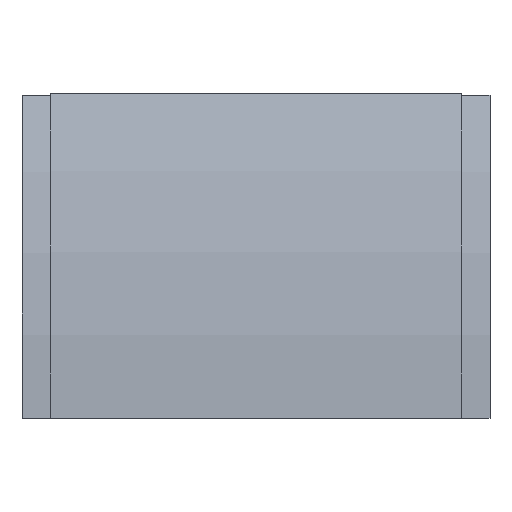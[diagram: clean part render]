
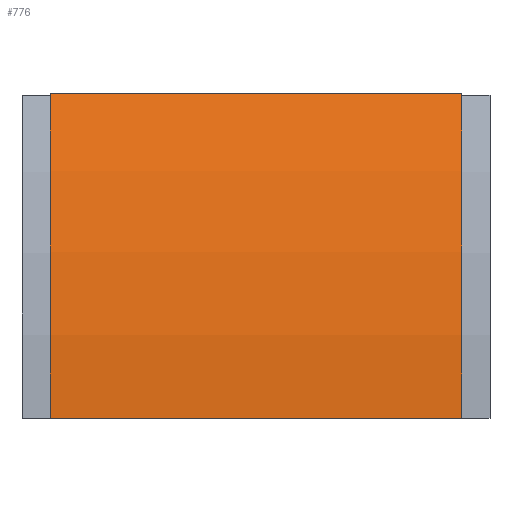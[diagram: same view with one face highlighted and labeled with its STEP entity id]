
A CAD part, front view. The second image highlights one B-rep face of the part: STEP entity #776.
In plain terms, the highlighted cylindrical face has radius 568 mm (diameter 1136 mm), a partial arc.
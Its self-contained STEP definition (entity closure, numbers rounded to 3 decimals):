
#76 = AXIS2_PLACEMENT_3D ( 'NONE', #947, #957, #952 ) ;
#107 = AXIS2_PLACEMENT_3D ( 'NONE', #856, #810, #982 ) ;
#110 = AXIS2_PLACEMENT_3D ( 'NONE', #245, #244, #820 ) ;
#169 = EDGE_CURVE ( 'NONE', #713, #723, #425, .T. ) ;
#174 = EDGE_CURVE ( 'NONE', #728, #721, #420, .T. ) ;
#176 = EDGE_CURVE ( 'NONE', #713, #728, #423, .T. ) ;
#178 = EDGE_CURVE ( 'NONE', #723, #721, #417, .T. ) ;
#244 = DIRECTION ( 'NONE',  ( 1., 0., 0. ) ) ;
#245 = CARTESIAN_POINT ( 'NONE',  ( -152., 500., 0. ) ) ;
#400 = FACE_OUTER_BOUND ( 'NONE', #694, .T. ) ;
#414 = VECTOR ( 'NONE', #801, 1000. ) ;
#416 = VECTOR ( 'NONE', #976, 1000. ) ;
#417 = LINE ( 'NONE', #972, #414 ) ;
#420 = CIRCLE ( 'NONE', #107, 568. ) ;
#423 = LINE ( 'NONE', #935, #416 ) ;
#425 = CIRCLE ( 'NONE', #110, 568. ) ;
#489 = CYLINDRICAL_SURFACE ( 'NONE', #76, 568. ) ;
#655 = ORIENTED_EDGE ( 'NONE', *, *, #174, .F. ) ;
#657 = ORIENTED_EDGE ( 'NONE', *, *, #176, .F. ) ;
#659 = ORIENTED_EDGE ( 'NONE', *, *, #169, .T. ) ;
#661 = ORIENTED_EDGE ( 'NONE', *, *, #178, .T. ) ;
#694 = EDGE_LOOP ( 'NONE', ( #655, #657, #659, #661 ) ) ;
#713 = VERTEX_POINT ( 'NONE', #910 ) ;
#721 = VERTEX_POINT ( 'NONE', #900 ) ;
#723 = VERTEX_POINT ( 'NONE', #898 ) ;
#728 = VERTEX_POINT ( 'NONE', #889 ) ;
#776 = ADVANCED_FACE ( 'NONE', ( #400 ), #489, .T. ) ;
#801 = DIRECTION ( 'NONE',  ( 1., 0., 0. ) ) ;
#810 = DIRECTION ( 'NONE',  ( 1., 0., 0. ) ) ;
#820 = DIRECTION ( 'NONE',  ( 0., 0., -1. ) ) ;
#856 = CARTESIAN_POINT ( 'NONE',  ( 152., 500., 0. ) ) ;
#889 = CARTESIAN_POINT ( 'NONE',  ( 152., -14.783, 240.047 ) ) ;
#898 = CARTESIAN_POINT ( 'NONE',  ( -152., -68., 0. ) ) ;
#900 = CARTESIAN_POINT ( 'NONE',  ( 152., -68., 0. ) ) ;
#910 = CARTESIAN_POINT ( 'NONE',  ( -152., -14.783, 240.047 ) ) ;
#935 = CARTESIAN_POINT ( 'NONE',  ( -152., -14.783, 240.047 ) ) ;
#947 = CARTESIAN_POINT ( 'NONE',  ( 0., 500., 0. ) ) ;
#952 = DIRECTION ( 'NONE',  ( 0., 0., -1. ) ) ;
#957 = DIRECTION ( 'NONE',  ( 1., 0., 0. ) ) ;
#972 = CARTESIAN_POINT ( 'NONE',  ( -152., -68., 0. ) ) ;
#976 = DIRECTION ( 'NONE',  ( 1., 0., 0. ) ) ;
#982 = DIRECTION ( 'NONE',  ( 0., 0., -1. ) ) ;
